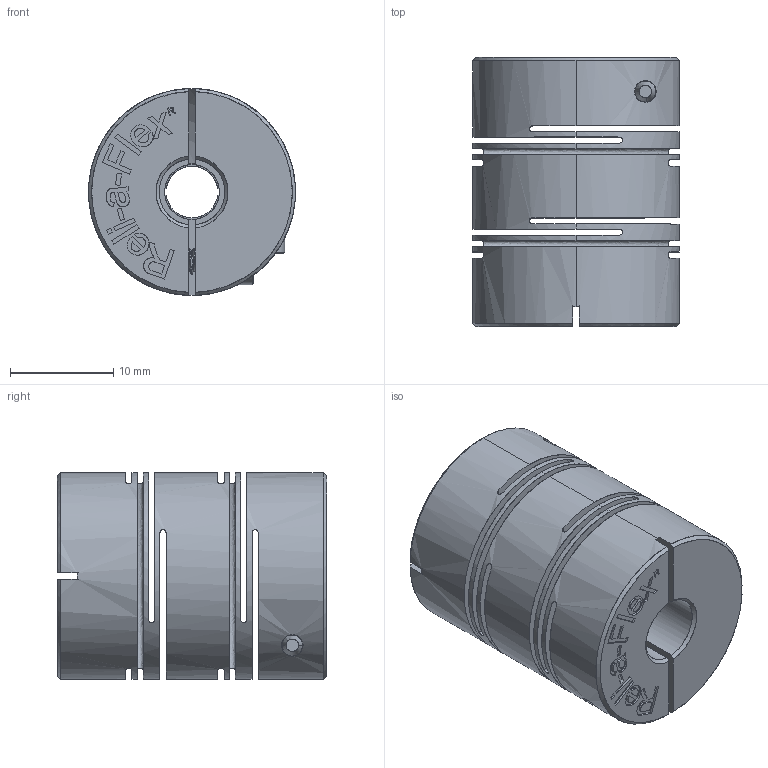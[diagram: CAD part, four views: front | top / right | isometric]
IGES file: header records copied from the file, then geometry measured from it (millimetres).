
Start section: Comment
Global section: file name: RCLA20C-0.250-5.igs; native system:  By UGS Corp.; preprocessor: XPlus GENERIC/IGES 3.0; author: Author; organization: Title; date: 20070323.111045; units: inch
Bounding box: 20 x 26 x 20 mm (x, y, z)
Surface area: 7078 mm2 (no closed solid volume)
Topology: 0 solids, 0 shells, 354 faces, 2510 edges, 2508 vertices
Faces by surface type: bspline 354
